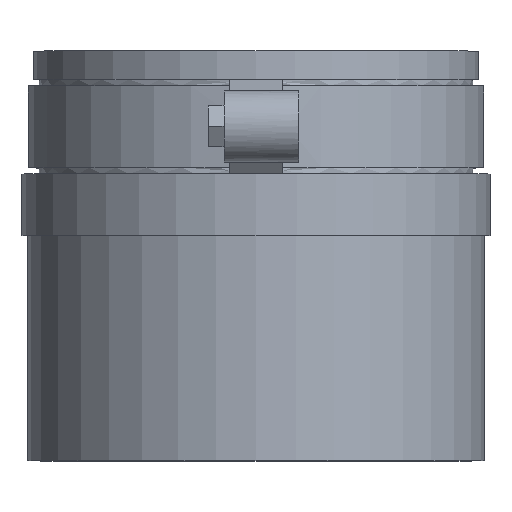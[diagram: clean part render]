
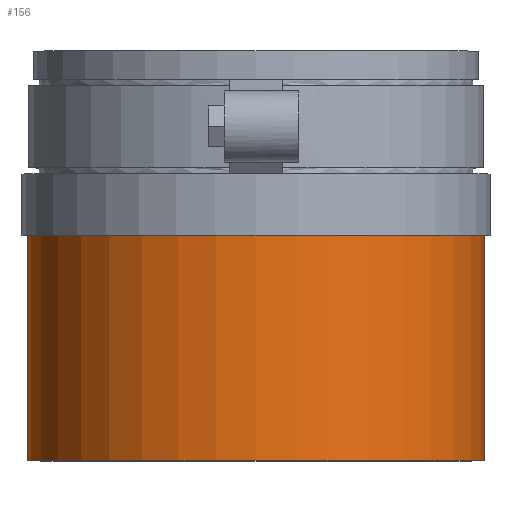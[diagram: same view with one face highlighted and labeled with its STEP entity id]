
A CAD part, top view. The second image highlights one B-rep face of the part: STEP entity #156.
In plain terms, the highlighted cylindrical face has radius 42.9 mm (diameter 85.8 mm), a full revolution.
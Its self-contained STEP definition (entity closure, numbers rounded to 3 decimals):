
#156 = ADVANCED_FACE( '', ( #332, #333 ), #334, .T. );
#332 = FACE_OUTER_BOUND( '', #515, .T. );
#333 = FACE_OUTER_BOUND( '', #516, .T. );
#334 = CYLINDRICAL_SURFACE( '', #517, 42.9 );
#515 = EDGE_LOOP( '', ( #925 ) );
#516 = EDGE_LOOP( '', ( #926 ) );
#517 = AXIS2_PLACEMENT_3D( '', #927, #928, #929 );
#925 = ORIENTED_EDGE( '', *, *, #1083, .F. );
#926 = ORIENTED_EDGE( '', *, *, #1179, .T. );
#927 = CARTESIAN_POINT( '', ( 0., 0., 0. ) );
#928 = DIRECTION( '', ( 0., 1., 0. ) );
#929 = DIRECTION( '', ( 0., 0., -1. ) );
#1083 = EDGE_CURVE( '', #1311, #1311, #1312, .T. );
#1179 = EDGE_CURVE( '', #1446, #1446, #1447, .T. );
#1311 = VERTEX_POINT( '', #1649 );
#1312 = CIRCLE( '', #1650, 42.9 );
#1446 = VERTEX_POINT( '', #1841 );
#1447 = CIRCLE( '', #1842, 42.9 );
#1649 = CARTESIAN_POINT( '', ( 0., 0., -42.9 ) );
#1650 = AXIS2_PLACEMENT_3D( '', #1949, #1950, #1951 );
#1841 = CARTESIAN_POINT( '', ( 0., 42.35, -42.9 ) );
#1842 = AXIS2_PLACEMENT_3D( '', #2045, #2046, #2047 );
#1949 = CARTESIAN_POINT( '', ( 0., 0., 0. ) );
#1950 = DIRECTION( '', ( 0., -1., 0. ) );
#1951 = DIRECTION( '', ( 0., 0., -1. ) );
#2045 = CARTESIAN_POINT( '', ( 0., 42.35, 0. ) );
#2046 = DIRECTION( '', ( 0., -1., 0. ) );
#2047 = DIRECTION( '', ( 0., 0., -1. ) );
